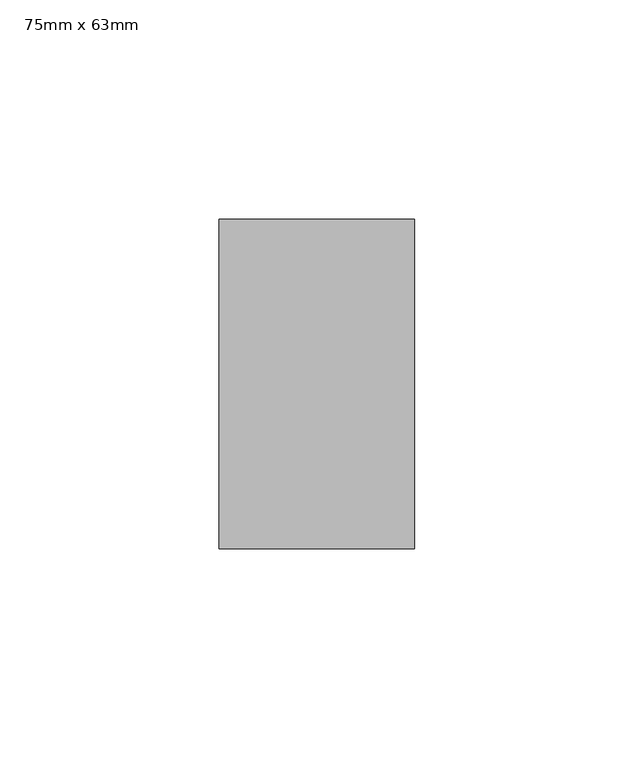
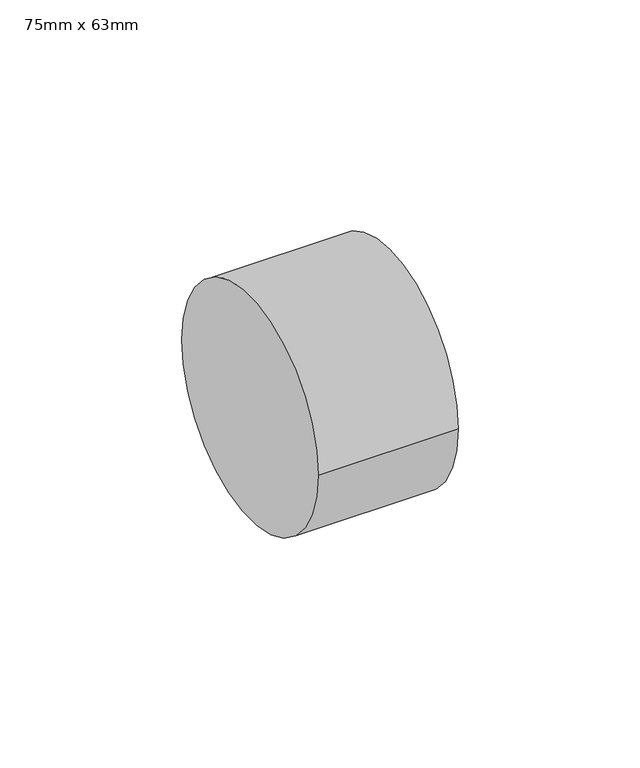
"""IFC4 building model written with IfcOpenShell, lengths in millimetres: pipe fitting geometry, PipeFitting_HTA_CPVC_ReducingBushesShortPattern : 75mm x 63mm."""

from ifc_helpers import new_model, si_unit, point, frame, origin, origin_2d, place, context, project, spatial, circle_curve, trimmed, segment, composite_curve, outline, extrude, source, transform, mapped, element, save


def pipe_fitting_75mm_x_63mm_38c00a34(model_context):
    return source(origin(), model_context, "Body", "SweptSolid", [
        extrude(outline(composite_curve([segment(trimmed(circle_curve(origin_2d(), 37.5), [point((-37.5, 0.0))], [point((37.5, 0.0))], False, "CARTESIAN"), True, "CONTINUOUS"), segment(trimmed(circle_curve(origin_2d(), 37.5), [point((37.5, 0.0))], [point((-37.5, 0.0))], False, "CARTESIAN"), True, "CONTINUOUS")], self_intersect=False)), frame((-22.25, 0.0, 0.0), z_axis=(1.0, 0.0, 0.0), x_axis=(0.0, 1.0, 0.0)), (0.0, 0.0, 1.0), 44.5),
    ])


if __name__ == "__main__":
    model = new_model("IFC4")
    model_context = context("Model", 3, world=origin())
    ifc_project = project(units=[si_unit("LENGTHUNIT", "METRE", prefix="MILLI")], contexts=[model_context])
    site = spatial("IfcSite", under=ifc_project)
    building = spatial("IfcBuilding", under=site)
    placement = place(None, origin())
    pipe_fitting_75mm_x_63mm_shape = pipe_fitting_75mm_x_63mm_38c00a34(model_context)
    element("IfcPipeFitting", 1, ObjectType="PipeFitting_HTA_CPVC_ReducingBushesShortPattern : 75mm x 63mm", at=placement, inside=building, context=model_context, shape_type="MappedRepresentation", body=[
        mapped(pipe_fitting_75mm_x_63mm_shape, transform((0.0, 0.0, 0.0), x_axis=(1.0, 0.0, 0.0), y_axis=(0.0, 1.0, 0.0), z_axis=(0.0, 0.0, 1.0))),
    ])
    save(model, "model.ifc")
